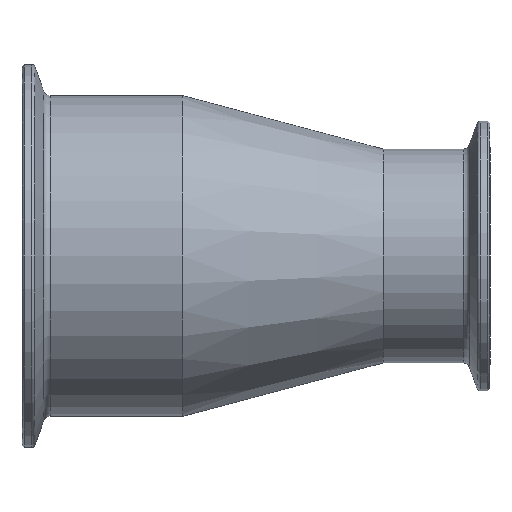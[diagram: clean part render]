
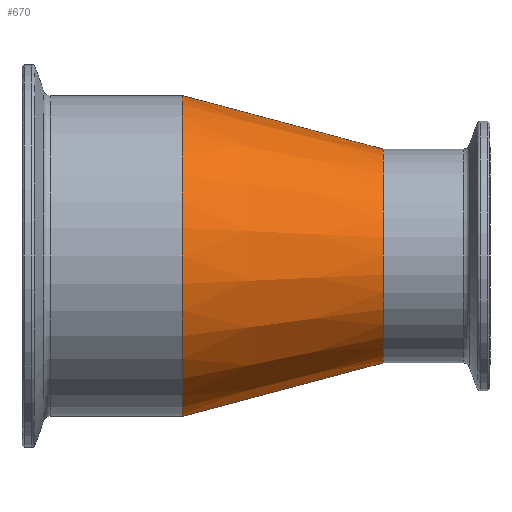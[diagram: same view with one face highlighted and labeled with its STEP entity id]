
A CAD part, front view. The second image highlights one B-rep face of the part: STEP entity #670.
In plain terms, the highlighted conical face has half-angle 14.93 degrees and reference radius 38.1 mm.
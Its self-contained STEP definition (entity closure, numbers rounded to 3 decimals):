
#47 = EDGE_CURVE ( 'NONE', #412, #154, #1510, .T. ) ;
#63 = CARTESIAN_POINT ( 'NONE',  ( 38.1, 0., 38.1 ) ) ;
#154 = VERTEX_POINT ( 'NONE', #155 ) ;
#155 = CARTESIAN_POINT ( 'NONE',  ( 38.1, 0., -38.1 ) ) ;
#207 = EDGE_CURVE ( 'NONE', #1016, #1579, #287, .T. ) ;
#236 = DIRECTION ( 'NONE',  ( -0.966, 0., -0.258 ) ) ;
#265 = DIRECTION ( 'NONE',  ( 0., 0., 1. ) ) ;
#287 = LINE ( 'NONE', #464, #674 ) ;
#317 = CARTESIAN_POINT ( 'NONE',  ( 38.1, 0., -38.1 ) ) ;
#349 = FACE_OUTER_BOUND ( 'NONE', #656, .T. ) ;
#393 = ORIENTED_EDGE ( 'NONE', *, *, #47, .F. ) ;
#394 = DIRECTION ( 'NONE',  ( -1., 0., 0. ) ) ;
#412 = VERTEX_POINT ( 'NONE', #727 ) ;
#444 = CARTESIAN_POINT ( 'NONE',  ( 38.1, 0., 0. ) ) ;
#456 = AXIS2_PLACEMENT_3D ( 'NONE', #444, #394, #265 ) ;
#464 = CARTESIAN_POINT ( 'NONE',  ( 38.1, 0., 38.1 ) ) ;
#467 = CARTESIAN_POINT ( 'NONE',  ( 38.1, 0., 0. ) ) ;
#486 = DIRECTION ( 'NONE',  ( -1., 0., 0. ) ) ;
#586 = CARTESIAN_POINT ( 'NONE',  ( 85.73, 0., 0. ) ) ;
#656 = EDGE_LOOP ( 'NONE', ( #393, #777, #929, #1403 ) ) ;
#664 = CIRCLE ( 'NONE', #1134, 38.1 ) ;
#670 = ADVANCED_FACE ( 'NONE', ( #349 ), #949, .T. ) ;
#674 = VECTOR ( 'NONE', #1088, 1000. ) ;
#697 = DIRECTION ( 'NONE',  ( -1., 0., 0. ) ) ;
#727 = CARTESIAN_POINT ( 'NONE',  ( 85.73, 0., -25.4 ) ) ;
#777 = ORIENTED_EDGE ( 'NONE', *, *, #1261, .T. ) ;
#877 = DIRECTION ( 'NONE',  ( 0., 0., 1. ) ) ;
#929 = ORIENTED_EDGE ( 'NONE', *, *, #207, .T. ) ;
#949 = CONICAL_SURFACE ( 'NONE', #456, 38.1, 0.261 ) ;
#1016 = VERTEX_POINT ( 'NONE', #1162 ) ;
#1069 = AXIS2_PLACEMENT_3D ( 'NONE', #586, #486, #877 ) ;
#1088 = DIRECTION ( 'NONE',  ( -0.966, 0., 0.258 ) ) ;
#1134 = AXIS2_PLACEMENT_3D ( 'NONE', #467, #697, #1311 ) ;
#1162 = CARTESIAN_POINT ( 'NONE',  ( 85.73, 0., 25.4 ) ) ;
#1182 = VECTOR ( 'NONE', #236, 1000. ) ;
#1261 = EDGE_CURVE ( 'NONE', #412, #1016, #1351, .T. ) ;
#1280 = EDGE_CURVE ( 'NONE', #154, #1579, #664, .T. ) ;
#1311 = DIRECTION ( 'NONE',  ( 0., 0., 1. ) ) ;
#1351 = CIRCLE ( 'NONE', #1069, 25.4 ) ;
#1403 = ORIENTED_EDGE ( 'NONE', *, *, #1280, .F. ) ;
#1510 = LINE ( 'NONE', #317, #1182 ) ;
#1579 = VERTEX_POINT ( 'NONE', #63 ) ;
